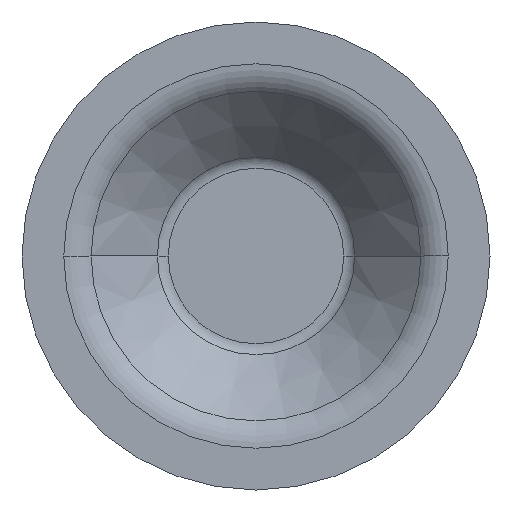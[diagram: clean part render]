
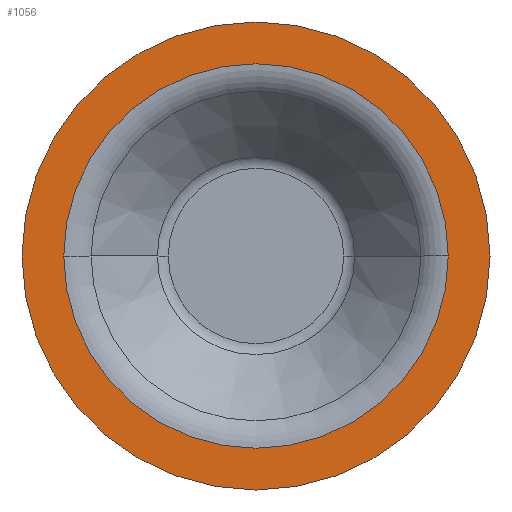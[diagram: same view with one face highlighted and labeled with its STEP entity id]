
A CAD part, front view. The second image highlights one B-rep face of the part: STEP entity #1056.
In plain terms, the highlighted planar face has unit normal (0, -1, 0).
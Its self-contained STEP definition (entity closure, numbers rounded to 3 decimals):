
#116 = CARTESIAN_POINT ( 'NONE',  ( 31.5, -15., 0. ) ) ;
#157 = AXIS2_PLACEMENT_3D ( 'NONE', #268, #1007, #1248 ) ;
#172 = EDGE_CURVE ( 'NONE', #1334, #281, #225, .T. ) ;
#225 = CIRCLE ( 'NONE', #610, 25.88 ) ;
#236 = FACE_BOUND ( 'NONE', #452, .T. ) ;
#268 = CARTESIAN_POINT ( 'NONE',  ( 0., -15., 0. ) ) ;
#281 = VERTEX_POINT ( 'NONE', #775 ) ;
#370 = DIRECTION ( 'NONE',  ( 0., -1., 0. ) ) ;
#432 = CARTESIAN_POINT ( 'NONE',  ( 0., -15., 0. ) ) ;
#452 = EDGE_LOOP ( 'NONE', ( #1449, #760 ) ) ;
#455 = VERTEX_POINT ( 'NONE', #1190 ) ;
#569 = EDGE_LOOP ( 'NONE', ( #1338, #1188 ) ) ;
#583 = AXIS2_PLACEMENT_3D ( 'NONE', #432, #951, #1315 ) ;
#591 = FACE_OUTER_BOUND ( 'NONE', #569, .T. ) ;
#604 = EDGE_CURVE ( 'NONE', #1232, #455, #1558, .T. ) ;
#610 = AXIS2_PLACEMENT_3D ( 'NONE', #748, #1093, #983 ) ;
#737 = DIRECTION ( 'NONE',  ( 1., 0., 0. ) ) ;
#748 = CARTESIAN_POINT ( 'NONE',  ( 0., -15., 0. ) ) ;
#760 = ORIENTED_EDGE ( 'NONE', *, *, #172, .F. ) ;
#775 = CARTESIAN_POINT ( 'NONE',  ( -25.88, -15., 0. ) ) ;
#951 = DIRECTION ( 'NONE',  ( 0., -1., 0. ) ) ;
#983 = DIRECTION ( 'NONE',  ( -1., 0., 0. ) ) ;
#1007 = DIRECTION ( 'NONE',  ( 0., -1., 0. ) ) ;
#1056 = ADVANCED_FACE ( 'NONE', ( #236, #591 ), #1105, .T. ) ;
#1093 = DIRECTION ( 'NONE',  ( 0., -1., 0. ) ) ;
#1105 = PLANE ( 'NONE',  #1366 ) ;
#1188 = ORIENTED_EDGE ( 'NONE', *, *, #1208, .T. ) ;
#1190 = CARTESIAN_POINT ( 'NONE',  ( -31.5, -15., 0. ) ) ;
#1208 = EDGE_CURVE ( 'NONE', #455, #1232, #1273, .T. ) ;
#1213 = AXIS2_PLACEMENT_3D ( 'NONE', #1270, #370, #737 ) ;
#1232 = VERTEX_POINT ( 'NONE', #116 ) ;
#1248 = DIRECTION ( 'NONE',  ( 1., 0., 0. ) ) ;
#1270 = CARTESIAN_POINT ( 'NONE',  ( 0., -15., 0. ) ) ;
#1273 = CIRCLE ( 'NONE', #1213, 31.5 ) ;
#1315 = DIRECTION ( 'NONE',  ( -1., 0., 0. ) ) ;
#1331 = CIRCLE ( 'NONE', #583, 25.88 ) ;
#1334 = VERTEX_POINT ( 'NONE', #1480 ) ;
#1338 = ORIENTED_EDGE ( 'NONE', *, *, #604, .T. ) ;
#1366 = AXIS2_PLACEMENT_3D ( 'NONE', #1620, #1629, #1504 ) ;
#1449 = ORIENTED_EDGE ( 'NONE', *, *, #1546, .F. ) ;
#1480 = CARTESIAN_POINT ( 'NONE',  ( 25.88, -15., 0. ) ) ;
#1504 = DIRECTION ( 'NONE',  ( 1., 0., 0. ) ) ;
#1546 = EDGE_CURVE ( 'NONE', #281, #1334, #1331, .T. ) ;
#1558 = CIRCLE ( 'NONE', #157, 31.5 ) ;
#1620 = CARTESIAN_POINT ( 'NONE',  ( 31.5, -15., 0. ) ) ;
#1629 = DIRECTION ( 'NONE',  ( 0., -1., 0. ) ) ;
